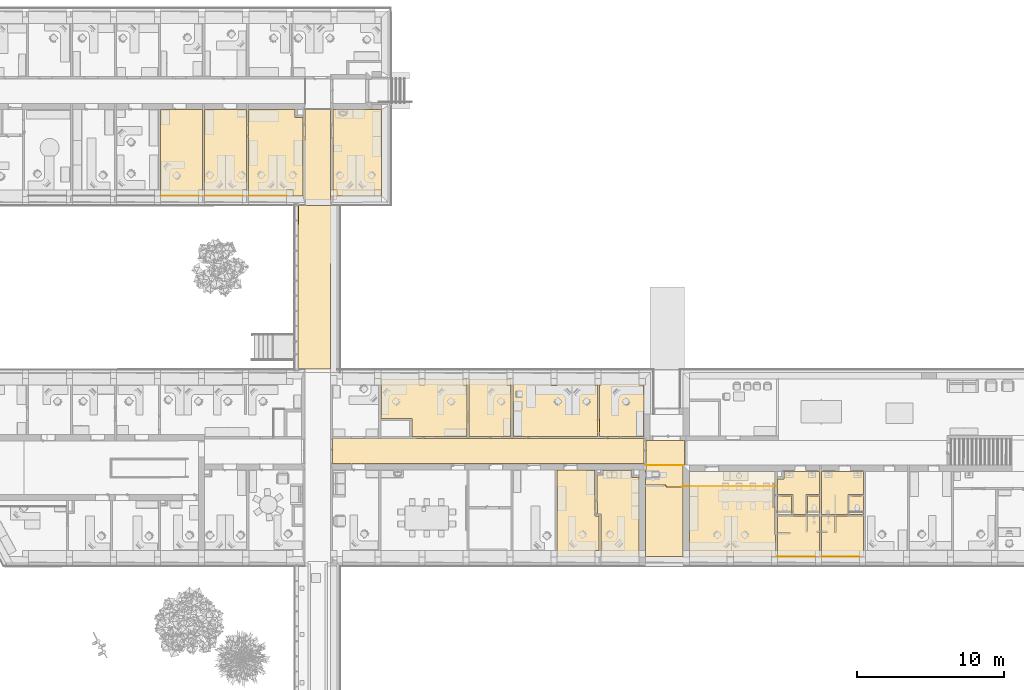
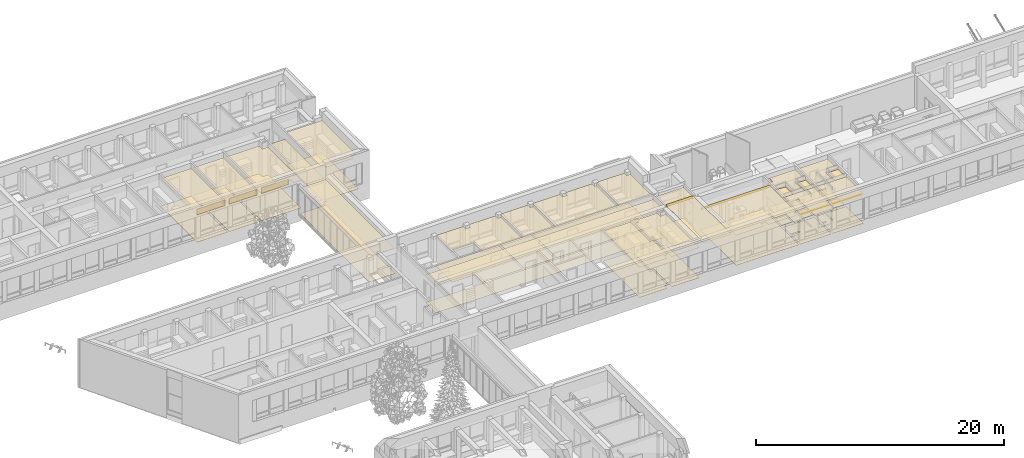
# One storey, part 107 of 194: 50 coverings.
"""IFC2X3 building model written with IfcOpenShell, lengths in millimetres."""

import ifcopenshell
import ifcopenshell.guid

model = None  # the IFC model being written
_history = None  # IfcOwnerHistory: only IFC2X3 demands one
_inside = {}  # id of a spatial element -> (the spatial element, [elements in it])
_under = {}  # id of a project, library or spatial element -> (it, [spatial elements below it])
_declared = {}  # id of a project -> (the project, [libraries it declares])
_typed = {}  # id of a type object -> (the type object, [elements of that type])
_made_of = {}  # id of a material, layer set ... -> (it, [elements and type objects made of it])


def new_model(schema):
    """Start an empty IFC model of exactly this schema.

    Asked for "IFC4X3", IfcOpenShell would pick the latest addendum, in which some entities
    have other attributes; the version numbers below select the first issue.
    IFC2X3 requires an IfcOwnerHistory on every rooted entity: one is made here for all.
    """
    global model, _history
    if schema == "IFC4X3":
        model = ifcopenshell.file(schema_version=(4, 3, 0, 0))
    else:
        model = ifcopenshell.file(schema=schema)
    _inside.clear()
    _under.clear()
    _declared.clear()
    _typed.clear()
    _made_of.clear()
    _history = None
    if model.schema == "IFC2X3":
        org = make("IfcOrganization", Name="unknown")
        user = make(
            "IfcPersonAndOrganization",
            ThePerson=make("IfcPerson", FamilyName="unknown"),
            TheOrganization=org,
        )
        app = make(
            "IfcApplication",
            ApplicationDeveloper=org,
            Version="unknown",
            ApplicationFullName="unknown",
            ApplicationIdentifier="unknown",
        )
        _history = make(
            "IfcOwnerHistory",
            OwningUser=user,
            OwningApplication=app,
            ChangeAction="ADDED",
            CreationDate=0,
        )
    return model


def make(cls, **values):
    """One entity of the class cls with the attributes given. An attribute that is None is left unset."""
    return model.create_entity(
        cls, **{name: value for name, value in values.items() if value is not None}
    )


def entity(cls, *values):
    """Any entity or typed value of the class cls, its attributes in the order of the schema. None: left unset."""
    e = model.create_entity(cls)
    for i, value in enumerate(values):
        if value is not None:
            e[i] = value
    return e


def rooted(cls, **values):
    """An entity with a GlobalId (a new one), such as an element, a storey or a relation."""
    return make(cls, GlobalId=ifcopenshell.guid.new(), OwnerHistory=_history, **values)


def si_unit(unit_type, name, prefix=None):
    """IfcSIUnit, for example si_unit("LENGTHUNIT", "METRE", prefix="MILLI")."""
    return make("IfcSIUnit", UnitType=unit_type, Prefix=prefix, Name=name)


def converted_unit(unit_type, name, factor, base, dimensions=None, offset=None):
    """IfcConversionBasedUnit, such as the inch: factor (a typed value) times the base unit."""
    return make(
        "IfcConversionBasedUnit"
        if offset is None
        else "IfcConversionBasedUnitWithOffset",
        ConversionOffset=offset,
        Dimensions=None
        if dimensions is None
        else entity("IfcDimensionalExponents", *dimensions),
        UnitType=unit_type,
        Name=name,
        ConversionFactor=make(
            "IfcMeasureWithUnit", ValueComponent=factor, UnitComponent=base
        ),
    )


def derived_unit(unit_type, elements):
    """IfcDerivedUnit: a product of units, each with its exponent."""
    return make(
        "IfcDerivedUnit",
        Elements=[
            make("IfcDerivedUnitElement", Unit=unit, Exponent=power)
            for unit, power in elements
        ],
        UnitType=unit_type,
    )


def money_unit(currency):
    """IfcMonetaryUnit."""
    return make("IfcMonetaryUnit", Currency=currency)


def assignment(units):
    """IfcUnitAssignment: the units of a project."""
    return None if units is None else make("IfcUnitAssignment", Units=units)


def point(xyz):
    """IfcCartesianPoint."""
    return None if xyz is None else make("IfcCartesianPoint", Coordinates=xyz)


def direction(xyz):
    """IfcDirection."""
    return None if xyz is None else make("IfcDirection", DirectionRatios=xyz)


def frame(location, z_axis=None, x_axis=None):
    """IfcAxis2Placement3D, a coordinate frame: its origin and axes. An axis left out is left unset."""
    return make(
        "IfcAxis2Placement3D",
        Location=point(location),
        Axis=direction(z_axis),
        RefDirection=direction(x_axis),
    )


def origin_with_axes():
    """The frame at (0, 0, 0) with the z axis (0, 0, 1) and the x axis (1, 0, 0) written out."""
    return frame((0.0, 0.0, 0.0), z_axis=(0.0, 0.0, 1.0), x_axis=(1.0, 0.0, 0.0))


def place(relative_to, where):
    """IfcLocalPlacement: puts the frame where relative to a parent placement (None: the world)."""
    return make(
        "IfcLocalPlacement", PlacementRelTo=relative_to, RelativePlacement=where
    )


def context(
    kind, dimensions, precision=None, world=None, true_north=None, identifier=None
):
    """IfcGeometricRepresentationContext, for example the 3D "Model" context."""
    return make(
        "IfcGeometricRepresentationContext",
        ContextIdentifier=identifier,
        ContextType=kind,
        CoordinateSpaceDimension=dimensions,
        Precision=precision,
        WorldCoordinateSystem=world,
        TrueNorth=true_north,
    )


def subcontext(parent, identifier, kind, view, scale=None):
    """IfcGeometricRepresentationSubContext, for example "Body" below "Model"."""
    return make(
        "IfcGeometricRepresentationSubContext",
        ContextIdentifier=identifier,
        ContextType=kind,
        ParentContext=parent,
        TargetScale=scale,
        TargetView=view,
    )


def project(units=None, contexts=None):
    """IfcProject with its units and contexts."""
    return rooted(
        "IfcProject",
        Name="project",
        RepresentationContexts=contexts,
        UnitsInContext=assignment(units),
    )


def spatial(cls, under=None, at=None, **own):
    """A site, building, storey or space (cls), placed at a placement, below another one or the project."""
    s = rooted(cls, ObjectPlacement=at, **own)
    if under is not None:
        _under.setdefault(under.id(), (under, []))[1].append(s)
    return s


def polyline(points):
    """IfcPolyline through the points."""
    return make("IfcPolyline", Points=[point(p) for p in points])


def outline(outer, holes=None, kind="AREA"):
    """IfcArbitraryClosedProfileDef: a profile drawn as a closed curve; with holes, ...WithVoids."""
    if holes is None:
        return make("IfcArbitraryClosedProfileDef", ProfileType=kind, OuterCurve=outer)
    return make(
        "IfcArbitraryProfileDefWithVoids",
        ProfileType=kind,
        OuterCurve=outer,
        InnerCurves=holes,
    )


def extrude(swept, where, along, depth):
    """IfcExtrudedAreaSolid: the profile swept, set in the frame where, extruded along a direction by depth."""
    return make(
        "IfcExtrudedAreaSolid",
        SweptArea=swept,
        Position=where,
        ExtrudedDirection=direction(along),
        Depth=depth,
    )


def shape(context_of_items, identifier, shape_type, items):
    """IfcShapeRepresentation: the items that make up one representation, for example the "Body"."""
    return make(
        "IfcShapeRepresentation",
        ContextOfItems=context_of_items,
        RepresentationIdentifier=identifier,
        RepresentationType=shape_type,
        Items=items,
    )


def material(Name=None, Category=None):
    """IfcMaterial."""
    return make("IfcMaterial", Name=Name, Category=Category)


def made_of(thing, what):
    """Note that an element or type object is made of a material, layer set ...; save() writes the relation."""
    if what is not None:
        _made_of.setdefault(what.id(), (what, []))[1].append(thing)
    return thing


def type_object(cls, material=None, **own):
    """A type object (cls), such as IfcWallType, which elements share."""
    return made_of(rooted(cls, **own), material)


def element(
    cls,
    number,
    at=None,
    inside=None,
    cuts=None,
    type_object=None,
    material=None,
    context=None,
    identifier="Body",
    shape_type=None,
    held_by="IfcProductDefinitionShape",
    body=None,
    shapes=None,
    **own,
):
    """One element of the class cls, such as IfcWall. Its Tag is "e" and its number.

    at: its placement. inside: the storey or other place that contains it. cuts: it is an
    opening in that element (IfcRelVoidsElement). A single representation is given by context,
    identifier, shape_type and body (its items); several are given by shapes. held_by: the class
    of the entity that holds the representations. save() writes the other relations.
    """
    e = rooted(cls, Tag="e%d" % number, ObjectPlacement=at, **own)
    if body is not None:
        shapes = [shape(context, identifier, shape_type, body)]
    if shapes is not None:
        e.Representation = make(held_by, Representations=shapes)
    if inside is not None:
        _inside.setdefault(inside.id(), (inside, []))[1].append(e)
    if cuts is not None:
        rooted(
            "IfcRelVoidsElement", RelatingBuildingElement=cuts, RelatedOpeningElement=e
        )
    if type_object is not None:
        _typed.setdefault(type_object.id(), (type_object, []))[1].append(e)
    return made_of(e, material)


def aggregate(whole, parts):
    """IfcRelAggregates: a whole, such as a stair, and the parts it consists of."""
    return rooted("IfcRelAggregates", RelatingObject=whole, RelatedObjects=parts)


def save(model, path):
    """Write the relations noted so far, then the file.

    IfcRelAggregates (storeys below a building ...), IfcRelContainedInSpatialStructure (elements
    in a storey), IfcRelDefinesByType, IfcRelAssociatesMaterial and IfcRelDeclares: one each for
    every whole, place, type object, material and project.
    """
    for whole, parts in _under.values():
        aggregate(whole, parts)
    for where, things in _inside.values():
        rooted(
            "IfcRelContainedInSpatialStructure",
            RelatedElements=things,
            RelatingStructure=where,
        )
    for kind, things in _typed.values():
        rooted("IfcRelDefinesByType", RelatedObjects=things, RelatingType=kind)
    for what, things in _made_of.values():
        rooted("IfcRelAssociatesMaterial", RelatedObjects=things, RelatingMaterial=what)
    for by, libraries in _declared.values():
        rooted("IfcRelDeclares", RelatingContext=by, RelatedDefinitions=libraries)
    model.write(path)


model = new_model("IFC2X3")

# Units and contexts
model_context = context("Model", 3, precision=1e-05, world=origin_with_axes(), true_north=direction((0.0, 1.0)))
body_context = subcontext(model_context, "Body", "Model", "MODEL_VIEW")
ifc_project = project(units=[si_unit("LENGTHUNIT", "METRE", prefix="MILLI"), si_unit("AREAUNIT", "SQUARE_METRE"), si_unit("VOLUMEUNIT", "CUBIC_METRE"), converted_unit("PLANEANGLEUNIT", "DEGREE", entity("IfcPlaneAngleMeasure", 0.0174532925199), si_unit("PLANEANGLEUNIT", "RADIAN"), dimensions=[0, 0, 0, 0, 0, 0, 0]), si_unit("SOLIDANGLEUNIT", "STERADIAN"), money_unit("EUR"), converted_unit("TIMEUNIT", "Year", entity("IfcTimeMeasure", 31556926.0), si_unit("TIMEUNIT", "SECOND"), dimensions=[0, 0, 1, 0, 0, 0, 0]), si_unit("MASSUNIT", "GRAM", prefix="KILO"), si_unit("THERMODYNAMICTEMPERATUREUNIT", "DEGREE_CELSIUS"), si_unit("LUMINOUSINTENSITYUNIT", "LUMEN"), si_unit("ENERGYUNIT", "JOULE", prefix="MEGA"), derived_unit("THERMALCONDUCTANCEUNIT", [(si_unit("POWERUNIT", "WATT"), 1), (si_unit("LENGTHUNIT", "METRE"), -1), (si_unit("THERMODYNAMICTEMPERATUREUNIT", "KELVIN"), -1)]), derived_unit("SPECIFICHEATCAPACITYUNIT", [(si_unit("ENERGYUNIT", "JOULE"), 1), (si_unit("MASSUNIT", "GRAM", prefix="KILO"), -1), (si_unit("THERMODYNAMICTEMPERATUREUNIT", "KELVIN"), -1)]), derived_unit("MASSDENSITYUNIT", [(si_unit("MASSUNIT", "GRAM", prefix="KILO"), 1), (si_unit("VOLUMEUNIT", "CUBIC_METRE"), -1)])], contexts=[model_context])

# Site, building, storey
site_placement = place(None, origin_with_axes())
site = spatial("IfcSite", under=ifc_project, at=site_placement, Name="Site", CompositionType="ELEMENT")
building_placement = place(site_placement, origin_with_axes())
building = spatial("IfcBuilding", under=site, at=building_placement, Name="Building", CompositionType="ELEMENT")
storey_placement = place(building_placement, frame((0.0, 0.0, 3000.0), z_axis=(0.0, 0.0, 1.0), x_axis=(1.0, 0.0, 0.0)))
storey = spatial("IfcBuildingStorey", under=building, at=storey_placement, Name="2 KORRUS", CompositionType="ELEMENT", Elevation=3000.0)

# Coverings
ifc_material_1 = material(Name="Värv")
covering_type_1 = type_object("IfcCoveringType", Name="L-3", PredefinedType="CLADDING")
covering_1_placement = place(storey_placement, frame((61208.1427846, 41003.0649281, 3250.0), z_axis=(0.0, 0.0, 1.0), x_axis=(1.0, 0.0, 0.0)))
element("IfcCovering", 1, at=covering_1_placement, inside=storey, type_object=covering_type_1, material=ifc_material_1, Name="Konstruktiivne lagi lauspahtel, värvitud", PredefinedType="CLADDING", context=body_context, shape_type="SweptSolid", body=[
    extrude(outline(polyline([(0.0, 0.0), (0.0, -321.440608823), (-52.9684669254, -321.440608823), (-52.9598547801, -6219.703942), (0.0, -6219.48380141), (2529.21002407, -6219.48380141), (2529.21002407, 0.0), (0.0, 0.0)])), origin_with_axes(), (0.0, 0.0, 1.0), 1.0),
])
ifc_material_2 = material(Name="Kipsplaat")
covering_type_2 = type_object("IfcCoveringType", Name="L-2", PredefinedType="CEILING")
covering_2_placement = place(storey_placement, frame((73157.4279343, 34784.3482977, 2900.0), z_axis=(0.0, 0.0, 1.0), x_axis=(1.0, 0.0, 0.0)))
element("IfcCovering", 2, at=covering_2_placement, inside=storey, type_object=covering_type_2, material=ifc_material_2, Name="Kahekordne niiskuskindlast kipsplaadist ripplag", PredefinedType="CEILING", context=body_context, shape_type="SweptSolid", body=[
    extrude(outline(polyline([(0.0, 0.0), (2849.57384952, 0.0), (2849.57384952, 2760.25811086), (0.0, 2760.25811086), (0.0, 0.0)])), origin_with_axes(), (0.0, 0.0, 1.0), 26.0),
])
covering_3_placement = place(storey_placement, frame((71126.0211613, 38894.6064083, 2800.0), z_axis=(0.0, 0.0, 1.0), x_axis=(1.0, 0.0, 0.0)))
element("IfcCovering", 3, at=covering_3_placement, inside=storey, type_object=covering_type_2, material=ifc_material_2, Name="Kahekordne niiskuskindlast kipsplaadist ripplag", PredefinedType="CEILING", context=body_context, shape_type="SweptSolid", body=[
    extrude(outline(polyline([(0.0, 0.0), (-971.79715977, 0.0), (-970.81407335, -1249.99999972), (0.0, -1249.99999972), (0.0, 0.0)])), origin_with_axes(), (0.0, 0.0, 1.0), 26.0),
])
covering_4_placement = place(storey_placement, frame((72190.5515735, 37644.6064086, 2800.0), z_axis=(0.0, 0.0, 1.0), x_axis=(1.0, 0.0, 0.0)))
element("IfcCovering", 4, at=covering_4_placement, inside=storey, type_object=covering_type_2, material=ifc_material_2, Name="Kahekordne niiskuskindlast kipsplaadist ripplag", PredefinedType="CEILING", context=body_context, shape_type="SweptSolid", body=[
    extrude(outline(polyline([(0.0, 0.0), (816.876360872, 0.0), (816.876360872, 1249.99999972), (0.0, 1249.99999972), (0.0, 0.0)])), origin_with_axes(), (0.0, 0.0, 1.0), 26.0),
])
covering_5_placement = place(storey_placement, frame((70155.2857158, 34784.0925949, 2900.0), z_axis=(0.0, 0.0, 1.0), x_axis=(1.0, 0.0, 0.0)))
element("IfcCovering", 5, at=covering_5_placement, inside=storey, type_object=covering_type_2, material=ifc_material_2, Name="Kahekordne niiskuskindlast kipsplaadist ripplag", PredefinedType="CEILING", context=body_context, shape_type="SweptSolid", body=[
    extrude(outline(polyline([(0.0, 0.0), (2852.1421796, 0.0), (2852.1421796, 2760.51381367), (0.0, 2760.51381367), (0.0, 0.0)])), origin_with_axes(), (0.0, 0.0, 1.0), 26.0),
])
covering_6_placement = place(storey_placement, frame((70154.1453722, 38994.6064248, 2800.0), z_axis=(0.0, 0.0, 1.0), x_axis=(1.0, 0.0, 0.0)))
element("IfcCovering", 6, at=covering_6_placement, inside=storey, type_object=covering_type_2, material=ifc_material_2, Name="Kahekordne niiskuskindlast kipsplaadist ripplag", PredefinedType="CEILING", context=body_context, shape_type="SweptSolid", body=[
    extrude(outline(polyline([(0.0, 0.0), (1071.87578962, 0.0), (1071.87578962, -1350.00001627), (1936.40619274, -1350.00001627), (1936.40619274, 0.0), (2853.2825515, 0.0), (2853.2825515, 1588.45850328), (439.397998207, 1588.45850328), (439.397998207, 1080.96148543), (0.0, 1080.61587869), (0.0, 0.0)])), origin_with_axes(), (0.0, 0.0, 1.0), 26.0),
])
covering_7_placement = place(storey_placement, frame((73157.4279343, 38994.6064248, 2800.0), z_axis=(0.0, 0.0, 1.0), x_axis=(1.0, 0.0, 0.0)))
element("IfcCovering", 7, at=covering_7_placement, inside=storey, type_object=covering_type_2, material=ifc_material_2, Name="Kahekordne niiskuskindlast kipsplaadist ripplag", PredefinedType="CEILING", context=body_context, shape_type="SweptSolid", body=[
    extrude(outline(polyline([(0.0, -1350.00001627), (1786.11709309, -1350.00001627), (1786.11709309, 0.0), (2853.28259529, 0.0), (2853.28259529, 1588.45850328), (0.0, 1588.45850328), (0.0, -1350.00001627)])), origin_with_axes(), (0.0, 0.0, 1.0), 26.0),
])
covering_8_placement = place(storey_placement, frame((75043.5450099, 37644.6064086, 2800.0), z_axis=(0.0, 0.0, 1.0), x_axis=(1.0, 0.0, 0.0)))
element("IfcCovering", 8, at=covering_8_placement, inside=storey, type_object=covering_type_2, material=ifc_material_2, Name="Kahekordne niiskuskindlast kipsplaadist ripplag", PredefinedType="CEILING", context=body_context, shape_type="SweptSolid", body=[
    extrude(outline(polyline([(0.0, 0.0), (961.493076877, 0.0), (961.493076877, 1249.99999972), (0.0, 1249.99999972), (0.0, 0.0)])), origin_with_axes(), (0.0, 0.0, 1.0), 26.0),
])
covering_type_3 = type_object("IfcCoveringType", Name="L-4", PredefinedType="CEILING")
covering_9_placement = place(storey_placement, frame((61208.1427585, 41003.0649281, 3000.0), z_axis=(0.0, 0.0, 1.0), x_axis=(1.0, 0.0, 0.0)))
element("IfcCovering", 9, at=covering_9_placement, inside=storey, type_object=covering_type_3, material=ifc_material_2, Name="Ripplagi", PredefinedType="CEILING", context=body_context, shape_type="SweptSolid", body=[
    extrude(outline(polyline([(0.0, 0.0), (2632.52171143, 0.0), (2632.52171143, 1697.42915733), (0.0, 1697.42915733), (0.0, 0.0)])), origin_with_axes(), (0.0, 0.0, 1.0), 15.0),
])
covering_10_placement = place(storey_placement, frame((39855.1750208, 41101.6243388, 2700.0), z_axis=(0.0, 0.0, 1.0), x_axis=(1.0, 0.0, 0.0)))
element("IfcCovering", 10, at=covering_10_placement, inside=storey, type_object=covering_type_3, material=ifc_material_2, Name="Ripplagi", PredefinedType="CEILING", context=body_context, shape_type="SweptSolid", body=[
    extrude(outline(polyline([(0.0, 0.0), (21202.9677378, 8.62192326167), (21202.9677378, 1716.3221856), (-0.000703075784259, 1716.3221856), (0.0, 0.0)])), origin_with_axes(), (0.0, 0.0, 1.0), 15.0),
])
covering_11_placement = place(storey_placement, frame((38000.74873, 58909.1534338, 2500.0), z_axis=(0.0, 0.0, 1.0), x_axis=(1.0, 0.0, 0.0)))
element("IfcCovering", 11, at=covering_11_placement, inside=storey, type_object=covering_type_3, material=ifc_material_2, Name="Ripplagi", PredefinedType="CEILING", context=body_context, shape_type="SweptSolid", body=[
    extrude(outline(polyline([(0.0, 0.0), (1732.49878453, 0.0), (1732.49878453, 6320.87492238), (0.0, 6320.87492238), (0.0, 0.0)])), origin_with_axes(), (0.0, 0.0, 1.0), 15.0),
])
ifc_material_3 = material(Name="Betoon - Ol.Olev konstruktsioon")
covering_type_4 = type_object("IfcCoveringType", Name="P-5", PredefinedType="NOTDEFINED")
covering_12_placement = place(storey_placement, frame((73157.4279343, 37544.6063964, 0.0), z_axis=(0.0, 0.0, 1.0), x_axis=(1.0, 0.0, 0.0)))
element("IfcCovering", 12, at=covering_12_placement, inside=storey, type_object=covering_type_4, material=ifc_material_3, Name="Betoon - Ol.Olev konstruktsioon", PredefinedType="NOTDEFINED", context=body_context, shape_type="SweptSolid", body=[
    extrude(outline(polyline([(0.0, 0.0), (0.0, -1018.6943126), (358.778228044, -1018.6943126), (358.778228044, -1118.69429955), (0.0, -1118.69429955), (0.0, -2760.22229274), (2849.89038236, -2759.97934066), (2847.68988452, 0.0), (985.006060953, 0.0), (985.006060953, -1109.78728797), (885.006074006, -1109.78728797), (885.006074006, 0.0), (0.0, 0.0)])), frame((0.0, 0.0, -20.0), z_axis=(0.0, 0.0, 1.0), x_axis=(1.0, 0.0, 0.0)), (0.0, 0.0, 1.0), 20.0),
])
covering_13_placement = place(storey_placement, frame((73157.4279343, 37644.6064086, 0.0), z_axis=(0.0, 0.0, 1.0), x_axis=(1.0, 0.0, 0.0)))
element("IfcCovering", 13, at=covering_13_placement, inside=storey, type_object=covering_type_4, material=ifc_material_3, Name="Betoon - Ol.Olev konstruktsioon", PredefinedType="NOTDEFINED", context=body_context, shape_type="SweptSolid", body=[
    extrude(outline(polyline([(0.0, 0.0), (1786.11707554, 0.0), (1786.11707554, 1349.99999972), (2852.64887306, 1349.99999972), (2847.61015242, 2938.45851954), (0.0, 2938.45851954), (0.0, 0.0)])), frame((0.0, 0.0, -20.0), z_axis=(0.0, 0.0, 1.0), x_axis=(1.0, 0.0, 0.0)), (0.0, 0.0, 1.0), 20.0),
])
covering_14_placement = place(storey_placement, frame((76004.0414691, 38894.6064083, 0.0), z_axis=(0.0, 0.0, 1.0), x_axis=(1.0, 0.0, 0.0)))
element("IfcCovering", 14, at=covering_14_placement, inside=storey, type_object=covering_type_4, material=ifc_material_3, Name="Betoon - Ol.Olev konstruktsioon", PredefinedType="NOTDEFINED", context=body_context, shape_type="SweptSolid", body=[
    extrude(outline(polyline([(0.0, 0.0), (-960.496459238, 0.0), (-960.496459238, -1073.99999972), (0.856286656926, -1073.99999972), (0.0, 0.0)])), frame((0.0, 0.0, -20.0), z_axis=(0.0, 0.0, 1.0), x_axis=(1.0, 0.0, 0.0)), (0.0, 0.0, 1.0), 20.0),
])
covering_15_placement = place(storey_placement, frame((72190.5515735, 37820.6064086, 0.0), z_axis=(0.0, 0.0, 1.0), x_axis=(1.0, 0.0, 0.0)))
element("IfcCovering", 15, at=covering_15_placement, inside=storey, type_object=covering_type_4, material=ifc_material_3, Name="Betoon - Ol.Olev konstruktsioon", PredefinedType="NOTDEFINED", context=body_context, shape_type="SweptSolid", body=[
    extrude(outline(polyline([(0.0, 0.0), (816.876360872, 0.0), (816.876360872, 1073.99999972), (0.0, 1073.99999972), (0.0, 0.0)])), frame((0.0, 0.0, -20.0), z_axis=(0.0, 0.0, 1.0), x_axis=(1.0, 0.0, 0.0)), (0.0, 0.0, 1.0), 20.0),
])
covering_16_placement = place(storey_placement, frame((71126.0211585, 38894.6064083, 0.0), z_axis=(0.0, 0.0, 1.0), x_axis=(1.0, 0.0, 0.0)))
element("IfcCovering", 16, at=covering_16_placement, inside=storey, type_object=covering_type_4, material=ifc_material_3, Name="Betoon - Ol.Olev konstruktsioon", PredefinedType="NOTDEFINED", context=body_context, shape_type="SweptSolid", body=[
    extrude(outline(polyline([(0.0, 0.0), (-971.79715701, 0.0), (-970.93204096, -1099.99999916), (-970.814056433, -1073.99999919), (0.0, -1073.99999919), (0.0, 0.0)])), frame((0.0, 0.0, -20.0), z_axis=(0.0, 0.0, 1.0), x_axis=(1.0, 0.0, 0.0)), (0.0, 0.0, 1.0), 20.0),
])
covering_17_placement = place(storey_placement, frame((70153.295184, 40075.5679103, 0.0), z_axis=(0.0, 0.0, 1.0), x_axis=(1.0, 0.0, 0.0)))
element("IfcCovering", 17, at=covering_17_placement, inside=storey, type_object=covering_type_4, material=ifc_material_3, Name="Betoon - Ol.Olev konstruktsioon", PredefinedType="NOTDEFINED", context=body_context, shape_type="SweptSolid", body=[
    extrude(outline(polyline([(0.0, 0.0), (0.850158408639, -1080.96148543), (1072.72599181, -1080.96148543), (1072.72599181, -2430.96150169), (1937.25639493, -2430.96150169), (1937.25639493, -1080.96148543), (2854.13275369, -1080.96148543), (2854.13275369, 507.49701785), (440.248200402, 507.49701785), (440.248200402, 0.0), (0.0, 0.0)])), frame((0.0, 0.0, -20.0), z_axis=(0.0, 0.0, 1.0), x_axis=(1.0, 0.0, 0.0)), (0.0, 0.0, 1.0), 20.0),
])
covering_18_placement = place(storey_placement, frame((70155.2857435, 37544.6064058, 0.0), z_axis=(0.0, 0.0, 1.0), x_axis=(1.0, 0.0, 0.0)))
element("IfcCovering", 18, at=covering_18_placement, inside=storey, type_object=covering_type_4, material=ifc_material_3, Name="Betoon - Ol.Olev konstruktsioon", PredefinedType="NOTDEFINED", context=body_context, shape_type="SweptSolid", body=[
    extrude(outline(polyline([(0.0, 0.0), (0.896288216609, -1139.60112083), (842.581643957, -1139.60112083), (842.581643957, -1239.60111364), (0.974913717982, -1239.60111364), (2.17104134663, -2760.47803123), (2852.14219087, -2760.23509968), (2852.14219087, -1118.69434499), (2710.91498012, -1118.69434499), (2710.91498012, -1018.6943097), (2852.14219087, -1018.6943097), (2852.14219087, 0.0), (2035.26581586, 0.0), (2035.26581586, -1042.38957083), (1935.26582306, -1042.38957083), (1935.26582306, 0.0), (0.0, 0.0)])), frame((0.0, 0.0, -20.0), z_axis=(0.0, 0.0, 1.0), x_axis=(1.0, 0.0, 0.0)), (0.0, 0.0, 1.0), 20.0),
])
covering_type_5 = type_object("IfcCoveringType", Name="P-2", PredefinedType="NOTDEFINED")
covering_19_placement = place(storey_placement, frame((70002.8960163, 40583.064919, 0.0), z_axis=(0.0, 0.0, 1.0), x_axis=(1.0, 0.0, 0.0)))
element("IfcCovering", 19, at=covering_19_placement, inside=storey, type_object=covering_type_5, material=ifc_material_3, Name="Betoon - Ol.Olev konstruktsioon", PredefinedType="NOTDEFINED", context=body_context, shape_type="SweptSolid", body=[
    extrude(outline(polyline([(0.0, 0.0), (-5845.54323158, 0.0), (-5845.54323158, -5799.44801639), (4.56073927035, -5798.94929722), (0.0, 0.0)])), frame((0.0, 0.0, -20.0), z_axis=(0.0, 0.0, 1.0), x_axis=(1.0, 0.0, 0.0)), (0.0, 0.0, 1.0), 20.0),
])
covering_20_placement = place(storey_placement, frame((57884.1720903, 40336.2119919, 0.0), z_axis=(0.0, 0.0, 1.0), x_axis=(1.0, 0.0, 0.0)))
element("IfcCovering", 20, at=covering_20_placement, inside=storey, type_object=covering_type_5, material=ifc_material_3, Name="Betoon - Ol.Olev konstruktsioon", PredefinedType="NOTDEFINED", context=body_context, shape_type="SweptSolid", body=[
    extrude(outline(polyline([(0.0, 0.0), (2.06237615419, -2638.39627595), (271.00229118, -2638.18190837), (270.007797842, -5552.88684234), (2851.08153051, -5552.88684234), (2851.08153051, -158.356386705), (2333.53269511, -158.356386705), (2333.53269511, 345.412277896), (387.26906548, 345.412277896), (387.26906548, 0.0), (0.0, 0.0)])), frame((0.0, 0.0, -20.0), z_axis=(0.0, 0.0, 1.0), x_axis=(1.0, 0.0, 0.0)), (0.0, 0.0, 1.0), 20.0),
])
covering_21_placement = place(storey_placement, frame((55155.6064537, 34783.0924673, 0.0), z_axis=(0.0, 0.0, 1.0), x_axis=(1.0, 0.0, 0.0)))
element("IfcCovering", 21, at=covering_21_placement, inside=storey, type_object=covering_type_5, material=ifc_material_3, Name="Betoon - Ol.Olev konstruktsioon", PredefinedType="NOTDEFINED", context=body_context, shape_type="SweptSolid", body=[
    extrude(outline(polyline([(0.0, 0.0), (2579.64828158, 0.0), (2579.56786401, 398.531802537), (2849.56796622, 398.095603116), (2849.56798789, 2764.81798857), (2580.74537298, 2764.60365935), (2579.64828158, 5898.53180254), (0.0, 5898.53180254), (0.0, 0.0)])), frame((0.0, 0.0, -20.0), z_axis=(0.0, 0.0, 1.0), x_axis=(1.0, 0.0, 0.0)), (0.0, 0.0, 1.0), 20.0),
])
covering_22_placement = place(storey_placement, frame((52154.3213712, 42960.6760434, 0.0), z_axis=(0.0, 0.0, 1.0), x_axis=(1.0, 0.0, 0.0)))
element("IfcCovering", 22, at=covering_22_placement, inside=storey, type_object=covering_type_5, material=ifc_material_3, Name="Betoon - Ol.Olev konstruktsioon", PredefinedType="NOTDEFINED", context=body_context, shape_type="SweptSolid", body=[
    extrude(outline(polyline([(0.0, 0.0), (8917.84847218, 0.0), (8917.84847218, 3911.64984959), (0.0, 3911.64984959), (0.0, 0.0)])), frame((0.0, 0.0, -20.0), z_axis=(0.0, 0.0, 1.0), x_axis=(1.0, 0.0, 0.0)), (0.0, 0.0, 1.0), 20.0),
])
covering_23_placement = place(storey_placement, frame((52004.3213424, 46872.325893, 0.0), z_axis=(0.0, 0.0, 1.0), x_axis=(1.0, 0.0, 0.0)))
element("IfcCovering", 23, at=covering_23_placement, inside=storey, type_object=covering_type_5, material=ifc_material_3, Name="Betoon - Ol.Olev konstruktsioon", PredefinedType="NOTDEFINED", context=body_context, shape_type="SweptSolid", body=[
    extrude(outline(polyline([(0.0, 0.0), (-2850.22336644, 0.0), (-2847.10270806, -3914.09473961), (0.0, -3911.77231188), (0.0, 0.0)])), frame((0.0, 0.0, -20.0), z_axis=(0.0, 0.0, 1.0), x_axis=(1.0, 0.0, 0.0)), (0.0, 0.0, 1.0), 20.0),
])
covering_24_placement = place(storey_placement, frame((49004.0979374, 46872.3259176, 0.0), z_axis=(0.0, 0.0, 1.0), x_axis=(1.0, 0.0, 0.0)))
element("IfcCovering", 24, at=covering_24_placement, inside=storey, type_object=covering_type_5, material=ifc_material_3, Name="Betoon - Ol.Olev konstruktsioon", PredefinedType="NOTDEFINED", context=body_context, shape_type="SweptSolid", body=[
    extrude(outline(polyline([(0.0, 0.0), (-5849.82161789, 0.0), (-5849.3789981, -2687.50761068), (-3748.01676272, -2686.20042146), (-3747.92344189, -2836.20038501), (-3749.10643593, -2836.20108274), (-3749.75261721, -3917.27840544), (3.1207529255, -3914.21713364), (0.0, 0.0)])), frame((0.0, 0.0, -20.0), z_axis=(0.0, 0.0, 1.0), x_axis=(1.0, 0.0, 0.0)), (0.0, 0.0, 1.0), 20.0),
])
covering_25_placement = place(storey_placement, frame((39883.2475145, 65210.0283559, 0.0), z_axis=(0.0, 0.0, 1.0), x_axis=(1.0, 0.0, 0.0)))
element("IfcCovering", 25, at=covering_25_placement, inside=storey, type_object=covering_type_5, material=ifc_material_3, Name="Betoon - Ol.Olev konstruktsioon", PredefinedType="NOTDEFINED", context=body_context, shape_type="SweptSolid", body=[
    extrude(outline(polyline([(0.0, 0.0), (0.0, -6101.0020125), (280.007453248, -6101.0020125), (279.974997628, -5870.81420886), (3312.62504917, -5870.38619469), (3310.1197844, 0.0), (0.0, 0.0)])), frame((0.0, 0.0, -20.0), z_axis=(0.0, 0.0, 1.0), x_axis=(1.0, 0.0, 0.0)), (0.0, 0.0, 1.0), 20.0),
])
covering_26_placement = place(storey_placement, frame((37314.0924839, 65210.0283559, 0.0), z_axis=(0.0, 0.0, 1.0), x_axis=(1.0, 0.0, 0.0)))
element("IfcCovering", 26, at=covering_26_placement, inside=storey, type_object=covering_type_5, material=ifc_material_3, Name="Betoon - Ol.Olev konstruktsioon", PredefinedType="NOTDEFINED", context=body_context, shape_type="SweptSolid", body=[
    extrude(outline(polyline([(0.0, 0.0), (-3163.12424862, 0.0), (-3159.53432626, -5871.54547065), (540.521428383, -5871.02322536), (536.914269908, -513.127742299), (0.0, -513.127742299), (0.0, 0.0)])), frame((0.0, 0.0, -20.0), z_axis=(0.0, 0.0, 1.0), x_axis=(1.0, 0.0, 0.0)), (0.0, 0.0, 1.0), 20.0),
])
covering_27_placement = place(storey_placement, frame((34000.9682457, 65210.0283559, 0.0), z_axis=(0.0, 0.0, 1.0), x_axis=(1.0, 0.0, 0.0)))
element("IfcCovering", 27, at=covering_27_placement, inside=storey, type_object=covering_type_5, material=ifc_material_3, Name="Betoon - Ol.Olev konstruktsioon", PredefinedType="NOTDEFINED", context=body_context, shape_type="SweptSolid", body=[
    extrude(outline(polyline([(0.0, 0.0), (-2849.68893986, 0.0), (-2846.43370568, -5871.96890285), (3.58991876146, -5871.56666885), (0.0, 0.0)])), frame((0.0, 0.0, -20.0), z_axis=(0.0, 0.0, 1.0), x_axis=(1.0, 0.0, 0.0)), (0.0, 0.0, 1.0), 20.0),
])
covering_28_placement = place(storey_placement, frame((31001.2792835, 65210.0283559, 0.0), z_axis=(0.0, 0.0, 1.0), x_axis=(1.0, 0.0, 0.0)))
element("IfcCovering", 28, at=covering_28_placement, inside=storey, type_object=covering_type_5, material=ifc_material_3, Name="Betoon - Ol.Olev konstruktsioon", PredefinedType="NOTDEFINED", context=body_context, shape_type="SweptSolid", body=[
    extrude(outline(polyline([(0.0, 0.0), (-2850.67246563, 0.0), (-2847.0701247, -5872.39237766), (3.25529392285, -5871.99011465), (0.0, 0.0)])), frame((0.0, 0.0, -20.0), z_axis=(0.0, 0.0, 1.0), x_axis=(1.0, 0.0, 0.0)), (0.0, 0.0, 1.0), 20.0),
])
covering_type_6 = type_object("IfcCoveringType", Name="L-1", PredefinedType="CEILING")
covering_29_placement = place(storey_placement, frame((39880.3860716, 65210.0283559, 3150.0), z_axis=(0.0, 0.0, 1.0), x_axis=(1.0, 0.0, 0.0)))
element("IfcCovering", 29, at=covering_29_placement, inside=storey, type_object=covering_type_6, material=ifc_material_2, Name="Ripplagi. Akustine kipsplaat", PredefinedType="CEILING", context=body_context, shape_type="SweptSolid", body=[
    extrude(outline(polyline([(0.0, 0.0), (0.0, -5470.71265951), (272.861442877, -5470.71265951), (273.690122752, -5870.81552304), (2851.51386196, -5870.45165012), (2853.94314036, -5470.71265951), (3311.98944921, -5471.07702065), (3313.03677973, 0.0), (0.0, 0.0)])), origin_with_axes(), (0.0, 0.0, 1.0), 20.0),
])
covering_30_placement = place(storey_placement, frame((31001.2792835, 65210.0283559, 2699.7163119), z_axis=(0.0, 0.0, 1.0), x_axis=(1.0, 0.0, 0.0)))
element("IfcCovering", 30, at=covering_30_placement, inside=storey, type_object=covering_type_6, material=ifc_material_2, Name="Ripplagi. Akustine kipsplaat", PredefinedType="CEILING", context=body_context, shape_type="SweptSolid", body=[
    extrude(outline(polyline([(0.0, 0.0), (-2850.67246563, 0.0), (-2847.0701247, -5872.39237766), (-266.980265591, -5872.02825267), (-266.977509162, -5471.55955689), (3.0333327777, -5471.55953366), (0.0, 0.0)])), origin_with_axes(), (0.0, 0.0, 1.0), 20.0),
])
covering_31_placement = place(storey_placement, frame((34000.9682457, 65210.0283559, 2699.7163119), z_axis=(0.0, 0.0, 1.0), x_axis=(1.0, 0.0, 0.0)))
element("IfcCovering", 31, at=covering_31_placement, inside=storey, type_object=covering_type_6, material=ifc_material_2, Name="Ripplagi. Akustine kipsplaat", PredefinedType="CEILING", context=body_context, shape_type="SweptSolid", body=[
    extrude(outline(polyline([(0.0, 0.0), (-2849.68893986, 0.0), (-2846.43370568, -5871.96890285), (-266.666874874, -5871.60481116), (-266.410093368, -5470.71269932), (3.34505799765, -5471.07677726), (0.0, 0.0)])), origin_with_axes(), (0.0, 0.0, 1.0), 20.0),
])
covering_32_placement = place(storey_placement, frame((37314.0924839, 65210.0283559, 2699.7163119), z_axis=(0.0, 0.0, 1.0), x_axis=(1.0, 0.0, 0.0)))
element("IfcCovering", 32, at=covering_32_placement, inside=storey, type_object=covering_type_6, material=ifc_material_2, Name="Ripplagi. Akustine kipsplaat", PredefinedType="CEILING", context=body_context, shape_type="SweptSolid", body=[
    extrude(outline(polyline([(0.0, 0.0), (-3163.12424862, 0.0), (-3159.53432626, -5871.54547065), (-579.791492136, -5871.18132508), (-579.791492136, -5470.71271535), (-159.791573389, -5470.71271535), (-159.791573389, -5871.12209237), (540.521428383, -5871.02322536), (537.229331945, -512.79771897), (0.0, -513.127742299), (0.0, 0.0)])), origin_with_axes(), (0.0, 0.0, 1.0), 20.0),
])
covering_33_placement = place(storey_placement, frame((55158.3895841, 40681.6243181, 2950.0), z_axis=(0.0, 0.0, 1.0), x_axis=(1.0, 0.0, 0.0)))
element("IfcCovering", 33, at=covering_33_placement, inside=storey, type_object=covering_type_6, material=ifc_material_2, Name="Ripplagi. Akustine kipsplaat", PredefinedType="CEILING", context=body_context, shape_type="SweptSolid", body=[
    extrude(outline(polyline([(0.0, 0.0), (0.0, -5899.05086291), (2577.14781997, -5898.55480903), (2577.07119962, -5500.4892864), (2846.78483581, -5500.43624768), (2846.78483581, -3133.71384182), (2577.96220101, -3133.9281281), (2575.51241857, 0.0), (0.0, 0.0)])), origin_with_axes(), (0.0, 0.0, 1.0), 20.0),
])
covering_34_placement = place(storey_placement, frame((57884.1722176, 40336.0872256, 2950.0), z_axis=(0.0, 0.0, 1.0), x_axis=(1.0, 0.0, 0.0)))
element("IfcCovering", 34, at=covering_34_placement, inside=storey, type_object=covering_type_6, material=ifc_material_2, Name="Ripplagi. Akustine kipsplaat", PredefinedType="CEILING", context=body_context, shape_type="SweptSolid", body=[
    extrude(outline(polyline([(0.0, 0.0), (2.06227724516, -2638.27155228), (272.923931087, -2638.05568248), (271.016173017, -5552.98195134), (2850.49019088, -5552.76212628), (2850.49019088, -158.231678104), (2333.53258016, -158.231678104), (2333.53258016, 345.537044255), (387.268911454, 345.537044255), (387.268911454, 0.302709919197), (0.0, 0.0)])), origin_with_axes(), (0.0, 0.0, 1.0), 20.0),
])
covering_35_placement = place(storey_placement, frame((48734.8424882, 46872.325893, 2950.0), z_axis=(0.0, 0.0, 1.0), x_axis=(1.0, 0.0, 0.0)))
element("IfcCovering", 35, at=covering_35_placement, inside=storey, type_object=covering_type_6, material=ifc_material_2, Name="Ripplagi. Akustine kipsplaat", PredefinedType="CEILING", context=body_context, shape_type="SweptSolid", body=[
    extrude(outline(polyline([(0.0, 0.0), (-2580.0, 0.0), (-2580.51321715, -400.855928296), (-3000.51321715, -400.855928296), (-3001.28013357, 0.0), (-5580.56616875, 1.10230757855e-05), (-5580.12354896, -2687.50759966), (-3479.76134062, -2686.20100046), (-3480.49717929, -3917.27838082), (272.376202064, -3914.21712262), (269.575077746, -400.855907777), (-0.513217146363, -400.855928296), (0.0, 0.0)])), origin_with_axes(), (0.0, 0.0, 1.0), 20.0),
])
covering_36_placement = place(storey_placement, frame((51734.3428942, 46874.3830897, 2950.0), z_axis=(0.0, 0.0, 1.0), x_axis=(1.0, 0.0, 0.0)))
element("IfcCovering", 36, at=covering_36_placement, inside=storey, type_object=covering_type_6, material=ifc_material_2, Name="Ripplagi. Akustine kipsplaat", PredefinedType="CEILING", context=body_context, shape_type="SweptSolid", body=[
    extrude(outline(polyline([(0.0, 0.0), (-2580.24491823, -2.05719673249), (-2577.12425985, -3916.15193634), (269.978448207, -3913.82950861), (269.978461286, -405.078556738), (-0.0136231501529, -402.913125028), (0.0, 0.0)])), origin_with_axes(), (0.0, 0.0, 1.0), 20.0),
])
covering_37_placement = place(storey_placement, frame((52154.3213712, 42960.6760434, 2950.0), z_axis=(0.0, 0.0, 1.0), x_axis=(1.0, 0.0, 0.0)))
element("IfcCovering", 37, at=covering_37_placement, inside=storey, type_object=covering_type_6, material=ifc_material_2, Name="Ripplagi. Akustine kipsplaat", PredefinedType="CEILING", context=body_context, shape_type="SweptSolid", body=[
    extrude(outline(polyline([(0.0, 0.0), (5738.23062467, 4.68068940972), (5743.80328032, 3510.7939213), (5580.00789985, 3510.7939213), (5580.00789985, 3911.64984959), (3000.00788863, 3911.64984959), (3000.00788863, 3509.01180754), (2580.00793625, 3509.01180754), (2580.00793625, 3913.70703044), (0.175483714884, 3913.70711602), (0.0, 0.0)])), origin_with_axes(), (0.0, 0.0, 1.0), 20.0),
])
covering_38_placement = place(storey_placement, frame((58153.601965, 46872.325893, 2950.0), z_axis=(0.0, 0.0, 1.0), x_axis=(1.0, 0.0, 0.0)))
element("IfcCovering", 38, at=covering_38_placement, inside=storey, type_object=covering_type_6, material=ifc_material_2, Name="Ripplagi. Akustine kipsplaat", PredefinedType="CEILING", context=body_context, shape_type="SweptSolid", body=[
    extrude(outline(polyline([(0.0, 0.0), (0.72730609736, -400.855928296), (-104.3530148, -401.186220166), (-104.3530148, -3906.84138091), (2913.77401337, -3904.37942655), (2913.86959358, -4021.48777181), (2919.87227028, -4021.48777181), (2918.56793622, -400.855982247), (2580.7273061, -400.855928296), (2580.0, 0.0), (0.0, 0.0)])), origin_with_axes(), (0.0, 0.0, 1.0), 20.0),
])
covering_39_placement = place(storey_placement, frame((70003.6825332, 39583.0103565, 2950.0), z_axis=(0.0, 0.0, 1.0), x_axis=(1.0, 0.0, 0.0)))
element("IfcCovering", 39, at=covering_39_placement, inside=storey, type_object=covering_type_6, material=ifc_material_2, Name="Ripplagi. Akustine kipsplaat", PredefinedType="CEILING", context=body_context, shape_type="SweptSolid", body=[
    extrude(outline(polyline([(0.0, 0.0), (-5846.32974843, 0.0), (-5846.32974843, -4799.39345385), (-3266.32974849, -4799.17352399), (-3266.32974849, -4401.38608665), (-2846.32974849, -4401.38608665), (-2845.95875541, -4799.13769069), (-265.958764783, -4798.91776157), (-266.329748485, -4401.38608665), (3.46157545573, -4401.38611352), (0.0, 0.0)])), origin_with_axes(), (0.0, 0.0, 1.0), 20.0),
])
covering_type_7 = type_object("IfcCoveringType", Name="P-1", PredefinedType="NOTDEFINED")
covering_40_placement = place(storey_placement, frame((61155.1743177, 40681.6242569, 0.0), z_axis=(0.0, 0.0, 1.0), x_axis=(1.0, 0.0, 0.0)))
element("IfcCovering", 40, at=covering_40_placement, inside=storey, type_object=covering_type_7, material=ifc_material_3, Name="Põrandakate", PredefinedType="NOTDEFINED", context=body_context, shape_type="SweptSolid", body=[
    extrude(outline(polyline([(0.0, 0.0), (0.0, -1023.9806995), (1421.03867352, -1023.9806995), (1421.03867352, -1173.9807021), (2582.17847269, -1173.9807021), (2582.17847269, 321.440682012), (2685.4901348, 321.440682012), (2686.83038525, 2018.86982851), (338.419899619, 2018.86982851), (338.42589435, 2011.32365231), (52.9684391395, 2011.09604286), (52.9684391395, 0.0), (0.0, 0.0)])), frame((0.0, 0.0, -20.0), z_axis=(0.0, 0.0, 1.0), x_axis=(1.0, 0.0, 0.0)), (0.0, 0.0, 1.0), 20.0),
])
covering_41_placement = place(storey_placement, frame((39855.1743177, 42817.9463725, 0.0), z_axis=(0.0, 0.0, 1.0), x_axis=(1.0, 0.0, 0.0)))
element("IfcCovering", 41, at=covering_41_placement, inside=storey, type_object=covering_type_7, material=ifc_material_3, Name="Põrandakate", PredefinedType="NOTDEFINED", context=body_context, shape_type="SweptSolid", body=[
    extrude(outline(polyline([(0.0, 0.0), (0.0, -1707.70011049), (21202.9684408, -1707.70011049), (21202.9684408, 0.0), (0.0, 0.0)])), frame((0.0, 0.0, -20.0), z_axis=(0.0, 0.0, 1.0), x_axis=(1.0, 0.0, 0.0)), (0.0, 0.0, 1.0), 20.0),
])
covering_42_placement = place(storey_placement, frame((37374.747914, 47540.3293184, 0.0), z_axis=(0.0, 0.0, 1.0), x_axis=(1.0, 0.0, 0.0)))
element("IfcCovering", 42, at=covering_42_placement, inside=storey, type_object=covering_type_7, material=ifc_material_3, Name="Põrandakate", PredefinedType="NOTDEFINED", context=body_context, shape_type="SweptSolid", body=[
    extrude(outline(polyline([(0.0, 0.0), (2426.19272757, 0.977335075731), (2425.22270215, 11148.697025), (0.0, 11148.6081461), (0.0, 0.0)])), frame((0.0, 0.0, -20.0), z_axis=(0.0, 0.0, 1.0), x_axis=(1.0, 0.0, 0.0)), (0.0, 0.0, 1.0), 20.0),
])
covering_type_8 = type_object("IfcCoveringType", Name="L-6", PredefinedType="CEILING")
covering_43_placement = place(storey_placement, frame((39725.2127453, 47538.049175, 2500.0), z_axis=(0.0, 0.0, 1.0), x_axis=(1.0, 0.0, 0.0)))
element("IfcCovering", 43, at=covering_43_placement, inside=storey, type_object=covering_type_8, material=ifc_material_2, Name="Kahekordne kipsplaadist ripplagi", PredefinedType="CEILING", context=body_context, shape_type="SweptSolid", body=[
    extrude(outline(polyline([(0.0, 0.0), (20.853720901, 11147.7196546), (-2197.1195109, 11151.8687538), (-2217.9732318, 4.14909920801), (0.0, 0.0)])), origin_with_axes(), (0.0, 0.0, 1.0), 26.0),
])
covering_type_9 = type_object("IfcCoveringType", Name="Kips", PredefinedType="CEILING")
covering_44_placement = place(storey_placement, frame((61208.1427585, 41003.0649281, 3000.0), z_axis=(0.0, 0.0, 1.0), x_axis=(1.0, 0.0, 0.0)))
element("IfcCovering", 44, at=covering_44_placement, inside=storey, type_object=covering_type_9, material=ifc_material_2, Name="Kipsplaat", PredefinedType="CEILING", context=body_context, shape_type="SweptSolid", body=[
    extrude(outline(polyline([(0.0, 0.0), (2529.21002623, 0.0), (2529.21002623, 12.9999999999), (0.0, 12.9999999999), (0.0, 0.0)])), origin_with_axes(), (0.0, 0.0, 1.0), 250.0),
])
covering_45_placement = place(storey_placement, frame((63724.6188731, 39586.6766986, 2726.0), z_axis=(0.0, 0.0, 1.0), x_axis=(1.0, 0.0, 0.0)))
element("IfcCovering", 45, at=covering_45_placement, inside=storey, type_object=covering_type_9, material=ifc_material_2, Name="Kipsplaat", PredefinedType="CEILING", context=body_context, shape_type="SweptSolid", body=[
    extrude(outline(polyline([(0.0, -12.9999999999), (6416.48123207, -12.9999999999), (6416.48123207, 0.0), (0.0, 0.0), (0.0, -12.9999999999)])), origin_with_axes(), (0.0, 0.0, 1.0), 234.0),
])
covering_46_placement = place(storey_placement, frame((30734.2990179, 59338.0001032, 2700.0), z_axis=(0.0, 0.0, 1.0), x_axis=(-0.999999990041, -0.000141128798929, 0.0)))
element("IfcCovering", 46, at=covering_46_placement, inside=storey, type_object=covering_type_9, material=ifc_material_2, Name="Kipsplaat", PredefinedType="CEILING", context=body_context, shape_type="SweptSolid", body=[
    extrude(outline(polyline([(0.0, -12.9999999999), (2580.0960203, -12.999999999), (2580.08988029, 0.0), (0.0, 0.0), (0.0, -12.9999999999)])), origin_with_axes(), (0.0, 0.0, 1.0), 550.0),
])
covering_47_placement = place(storey_placement, frame((33734.3013708, 59338.4235447, 2700.0), z_axis=(0.0, 0.0, 1.0), x_axis=(-0.999999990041, -0.000141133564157, 0.0)))
element("IfcCovering", 47, at=covering_47_placement, inside=storey, type_object=covering_type_9, material=ifc_material_2, Name="Kipsplaat", PredefinedType="CEILING", context=body_context, shape_type="SweptSolid", body=[
    extrude(outline(polyline([(-1.13686837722e-10, -13.0000000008), (2579.77219212, -13.0000000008), (2579.76681999, 0.0), (0.0, 0.0), (-1.13686837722e-10, -13.0000000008)])), origin_with_axes(), (0.0, 0.0, 1.0), 550.0),
])
covering_48_placement = place(storey_placement, frame((36734.3009517, 59338.8470061, 2700.0), z_axis=(0.0, 0.0, 1.0), x_axis=(-0.999999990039, -0.000141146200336, 0.0)))
element("IfcCovering", 48, at=covering_48_placement, inside=storey, type_object=covering_type_9, material=ifc_material_2, Name="Kipsplaat", PredefinedType="CEILING", context=body_context, shape_type="SweptSolid", body=[
    extrude(outline(polyline([(-1.13686837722e-10, -12.9999999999), (2579.74893849, -12.9999999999), (2579.74282507, 9.09494701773e-10), (0.0, 0.0), (-1.13686837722e-10, -12.9999999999)])), origin_with_axes(), (0.0, 0.0, 1.0), 550.0),
])
covering_49_placement = place(storey_placement, frame((73157.4279343, 34797.3482977, 2900.0), z_axis=(0.0, 0.0, 1.0), x_axis=(1.0, 0.0, 0.0)))
element("IfcCovering", 49, at=covering_49_placement, inside=storey, type_object=covering_type_9, material=ifc_material_2, Name="Kipsplaat", PredefinedType="CEILING", context=body_context, shape_type="SweptSolid", body=[
    extrude(outline(polyline([(0.0, -12.9999999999), (2579.92485033, -12.9999999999), (2579.92485033, 0.0), (0.0, 0.0), (0.0, -12.9999999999)])), origin_with_axes(), (0.0, 0.0, 1.0), 50.0),
])
covering_50_placement = place(storey_placement, frame((70157.3527847, 34797.3482977, 2900.0), z_axis=(0.0, 0.0, 1.0), x_axis=(1.0, 0.0, 0.0)))
element("IfcCovering", 50, at=covering_50_placement, inside=storey, type_object=covering_type_9, material=ifc_material_2, Name="Kipsplaat", PredefinedType="CEILING", context=body_context, shape_type="SweptSolid", body=[
    extrude(outline(polyline([(0.0, -12.9999999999), (2580.0, -12.9999999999), (2580.0, 0.0), (0.0, 0.0), (0.0, -12.9999999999)])), origin_with_axes(), (0.0, 0.0, 1.0), 50.0),
])

save(model, "model.ifc")
